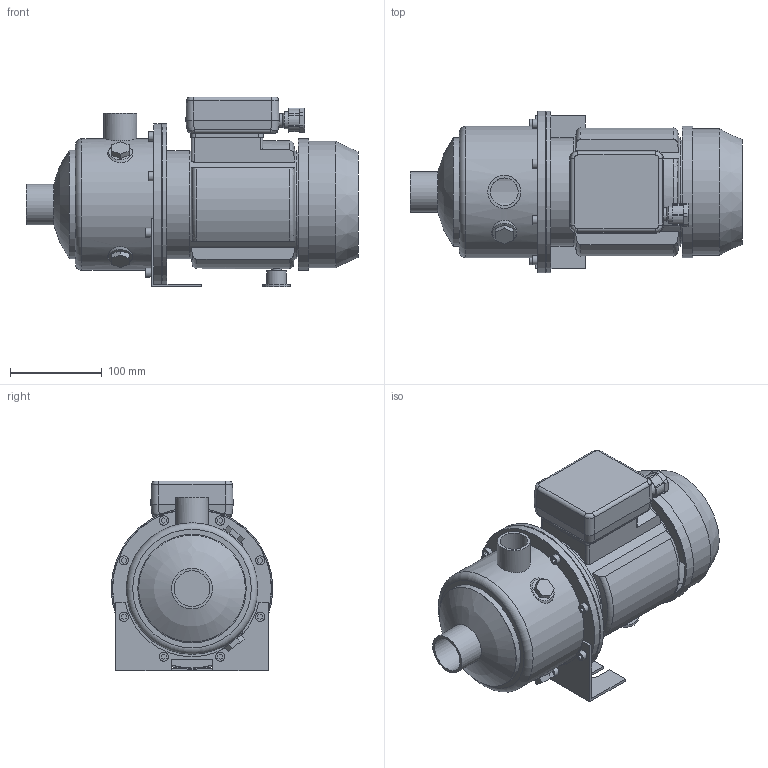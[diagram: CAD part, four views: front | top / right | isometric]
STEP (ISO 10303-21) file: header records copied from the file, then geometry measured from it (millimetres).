
FILE_DESCRIPTION(/* description */ ('Unknown'),/* implementation_level */ '2;1');
FILE_NAME(/* name */ 'MH 3 [2-3] T6 IE3',/* time_stamp */ '2026-07-10T15:11:01+02:00',/* author */ ('Unknown'),/* organization */ ('Unknown'),/* preprocessor_version */ 'ST-DEVELOPER v20',/* originating_system */ 'Solid Edge',/* authorisation */ 'Unknown');
FILE_SCHEMA (('AUTOMOTIVE_DESIGN {1 0 10303 214 3 1 1}'));
Length unit declared in the file: millimetre
Products named in the file (10): MH 3 [2-3] T6 IE3; Flangia motore Tonda M71; Corpo MH 3-5 [2-3]; Motore MEC 71 - T; carcassa MEC 71; Copriventola MEC 71; Basetta MEC 71 T; Ghiera PG13,5 cod. SAV.GHI.20; Piedino MEC 71 int.90; Staffa 3-5-9 int.90
Assembly tree (9 placements, depth 3):
  MH 3 [2-3] T6 IE3
    Flangia motore Tonda M71
    Corpo MH 3-5 [2-3]
    Motore MEC 71 - T
      carcassa MEC 71
      Copriventola MEC 71
      Basetta MEC 71 T
      Ghiera PG13,5 cod. SAV.GHI.20
    Piedino MEC 71 int.90
    Staffa 3-5-9 int.90
Bounding box: 362.6 x 176.5 x 207.5 mm (x, y, z)
Volume: 1772803.6 mm3; surface area: 477824 mm2
Topology: 8 solids, 8 shells, 316 faces, 750 edges, 497 vertices
Faces by surface type: plane 179, cylinder 100, cone 18, torus 9, bspline 8, sphere 2
Full cylindrical faces by diameter (mm): 7 x4, 10 x9, 13 x1, 15 x1, 18.6 x1, 19.73 x1, 21 x1, 30 x1, 30.291 x1, 36 x1, 38.952 x1, 44.5 x1, 110 x1, 114 x3, 116.1 x1, 118 x2, 118.5 x1, 133 x1, 138 x1, 139 x1, 141.1 x1, 143.5 x1, 144 x1, 173.5 x1, 174.1 x1, 176.5 x2
Entity records: 10381 total; most frequent: CARTESIAN_POINT 1885, DIRECTION 1485, ORIENTED_EDGE 1324, EDGE_CURVE 662, AXIS2_PLACEMENT_3D 551, VERTEX_POINT 468, EDGE_LOOP 432, FACE_BOUND 432
